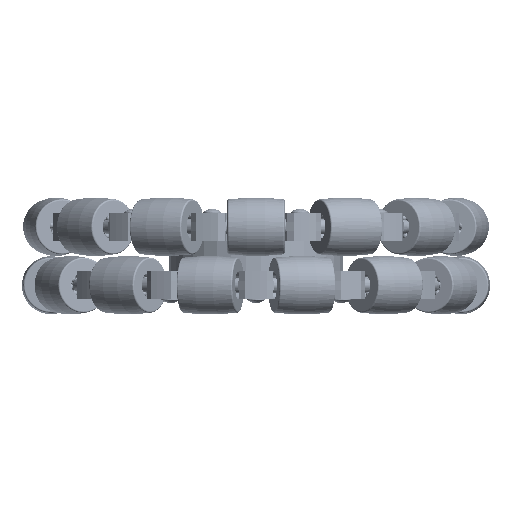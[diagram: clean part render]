
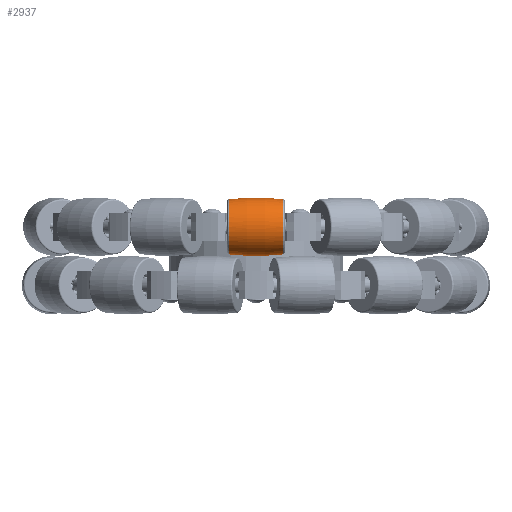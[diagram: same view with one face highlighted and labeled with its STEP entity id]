
A CAD part, front view. The second image highlights one B-rep face of the part: STEP entity #2937.
In plain terms, the highlighted toroidal (fillet/blend) face has major radius 66.7 mm and minor radius 76.2 mm.
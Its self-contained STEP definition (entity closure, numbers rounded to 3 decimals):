
#256 = AXIS2_PLACEMENT_3D ( 'NONE', #6843, #1280, #16506 ) ;
#292 = VERTEX_POINT ( 'NONE', #13941 ) ;
#444 = CARTESIAN_POINT ( 'NONE',  ( 8.858, 66.7, 8.983 ) ) ;
#509 = EDGE_CURVE ( 'NONE', #2373, #11606, #4826, .T. ) ;
#1128 = CARTESIAN_POINT ( 'NONE',  ( -8.858, 66.7, -8.983 ) ) ;
#1280 = DIRECTION ( 'NONE',  ( -1., 0., 0. ) ) ;
#1726 = CIRCLE ( 'NONE', #15446, 8.983 ) ;
#2293 = AXIS2_PLACEMENT_3D ( 'NONE', #3418, #13096, #4805 ) ;
#2373 = VERTEX_POINT ( 'NONE', #11257 ) ;
#2504 = EDGE_CURVE ( 'NONE', #13911, #2373, #7319, .T. ) ;
#2714 = ORIENTED_EDGE ( 'NONE', *, *, #13404, .F. ) ;
#2937 = ADVANCED_FACE ( 'NONE', ( #8179 ), #11841, .T. ) ;
#3418 = CARTESIAN_POINT ( 'NONE',  ( 0., 66.7, 66.7 ) ) ;
#3740 = AXIS2_PLACEMENT_3D ( 'NONE', #4716, #14385, #6107 ) ;
#4716 = CARTESIAN_POINT ( 'NONE',  ( 8.858, 66.7, 0. ) ) ;
#4805 = DIRECTION ( 'NONE',  ( 0., 0., 1. ) ) ;
#4826 = CIRCLE ( 'NONE', #2293, 76.2 ) ;
#5622 = CARTESIAN_POINT ( 'NONE',  ( 0., 66.7, -66.7 ) ) ;
#6107 = DIRECTION ( 'NONE',  ( 0., 0., 1. ) ) ;
#6843 = CARTESIAN_POINT ( 'NONE',  ( 0., 66.7, 0. ) ) ;
#6919 = DIRECTION ( 'NONE',  ( 1., 0., 0. ) ) ;
#7004 = DIRECTION ( 'NONE',  ( 0., 0., -1. ) ) ;
#7319 = CIRCLE ( 'NONE', #3740, 8.983 ) ;
#8179 = FACE_OUTER_BOUND ( 'NONE', #11351, .T. ) ;
#9256 = CIRCLE ( 'NONE', #10945, 76.2 ) ;
#10174 = ORIENTED_EDGE ( 'NONE', *, *, #12356, .T. ) ;
#10831 = ORIENTED_EDGE ( 'NONE', *, *, #2504, .T. ) ;
#10945 = AXIS2_PLACEMENT_3D ( 'NONE', #5622, #15294, #7004 ) ;
#11257 = CARTESIAN_POINT ( 'NONE',  ( 8.858, 66.7, -8.983 ) ) ;
#11351 = EDGE_LOOP ( 'NONE', ( #10831, #16960, #10174, #2714 ) ) ;
#11606 = VERTEX_POINT ( 'NONE', #1128 ) ;
#11841 = TOROIDAL_SURFACE ( 'NONE', #256, -66.7, 76.2 ) ;
#12356 = EDGE_CURVE ( 'NONE', #11606, #292, #1726, .T. ) ;
#13096 = DIRECTION ( 'NONE',  ( 0., 1., 0. ) ) ;
#13404 = EDGE_CURVE ( 'NONE', #13911, #292, #9256, .T. ) ;
#13911 = VERTEX_POINT ( 'NONE', #444 ) ;
#13941 = CARTESIAN_POINT ( 'NONE',  ( -8.858, 66.7, 8.983 ) ) ;
#14385 = DIRECTION ( 'NONE',  ( -1., 0., 0. ) ) ;
#15203 = CARTESIAN_POINT ( 'NONE',  ( -8.858, 66.7, 0. ) ) ;
#15294 = DIRECTION ( 'NONE',  ( 0., -1., 0. ) ) ;
#15446 = AXIS2_PLACEMENT_3D ( 'NONE', #15203, #6919, #16570 ) ;
#16506 = DIRECTION ( 'NONE',  ( 0., 0., 1. ) ) ;
#16570 = DIRECTION ( 'NONE',  ( 0., 0., -1. ) ) ;
#16960 = ORIENTED_EDGE ( 'NONE', *, *, #509, .T. ) ;
